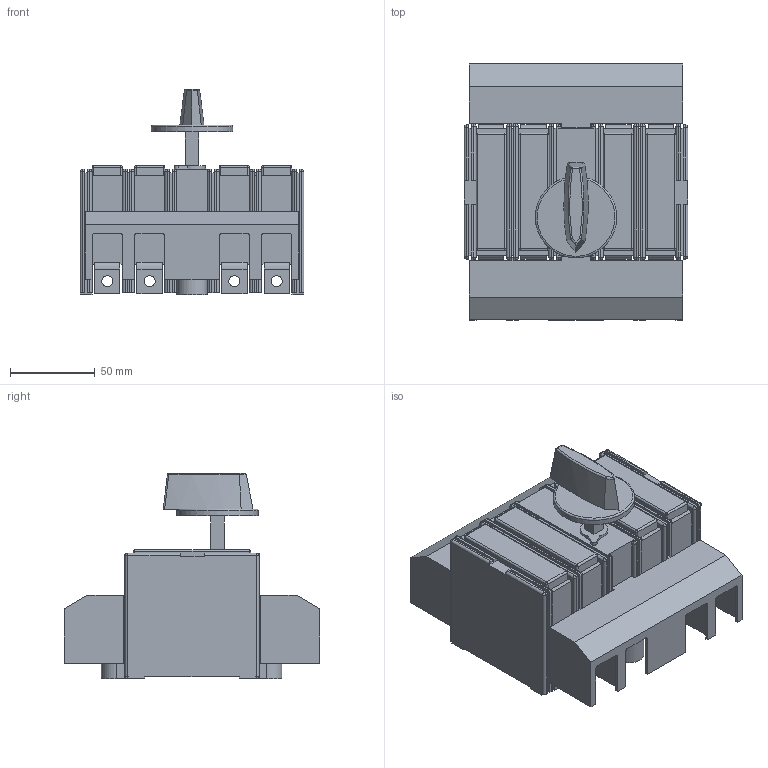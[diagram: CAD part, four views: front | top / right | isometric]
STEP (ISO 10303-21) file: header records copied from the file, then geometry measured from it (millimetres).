
FILE_DESCRIPTION(/* description */ (''),/* implementation_level */ '2;1');
FILE_NAME(/* name */ 'RA100 P3 NC-R z oslonka zaciskow, RA100 P4 C-R z oslonka zaciskow.stp',/* time_stamp */ '2021-08-17T14:35:53+02:00',/* author */ (''),/* organization */ (''),/* preprocessor_version */ 'ST-DEVELOPER v18.1',/* originating_system */ 'SIEMENS PLM Software NX 1965',/* authorisation */ '');
FILE_SCHEMA (('AUTOMOTIVE_DESIGN { 1 0 10303 214 3 1 1 1 }'));
Length unit declared in the file: millimetre
Products named in the file (1): RA100 P3 NC-R z oslonka zaciskow, RA100 P4 C-R z oslonka zaciskow
Bounding box: 132 x 151.03 x 121 mm (x, y, z)
Volume: 713934.5 mm3; surface area: 134832.3 mm2
Topology: 1 solids, 1 shells, 524 faces, 1429 edges, 877 vertices
Faces by surface type: plane 322, cylinder 153, sphere 41, bspline 7, torus 1
Full cylindrical faces by diameter (mm): 5.8 x2, 6.5 x8, 10 x2, 11.5 x2, 48 x1
Entity records: 16081 total; most frequent: CARTESIAN_POINT 3011, ORIENTED_EDGE 2726, DIRECTION 2682, EDGE_CURVE 1363, LINE 1030, VECTOR 1030, VERTEX_POINT 868, AXIS2_PLACEMENT_3D 826
